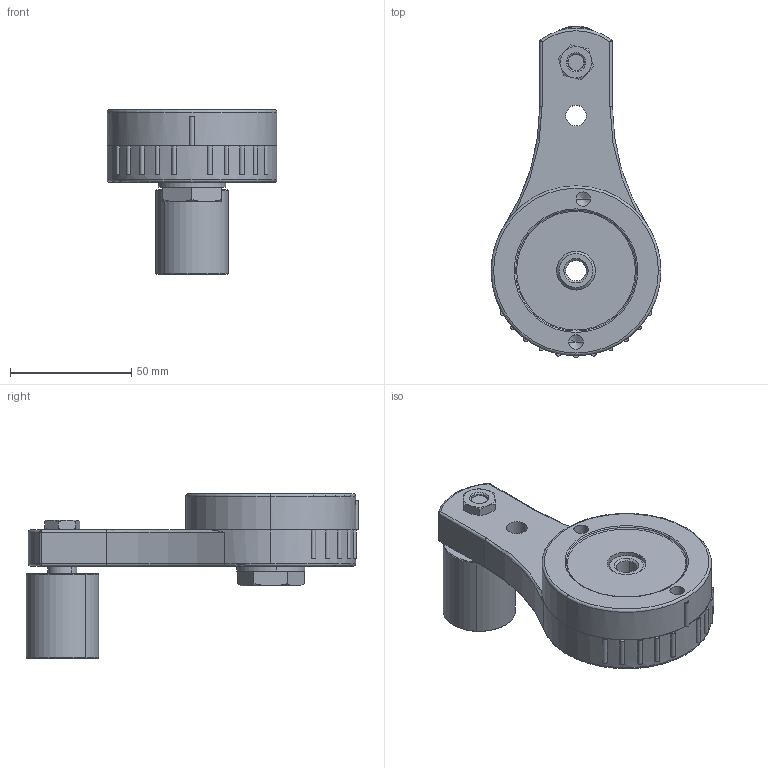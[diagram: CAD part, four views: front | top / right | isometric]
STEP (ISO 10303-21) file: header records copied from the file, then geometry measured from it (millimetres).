
FILE_DESCRIPTION (( 'STEP AP203' ), '1' );
FILE_NAME ('TRU1 - 3035PA cod. 94031135.STEP', '2017-08-23T09:09:39', ( '' ), ( '' ), 'SwSTEP 2.0', 'SolidWorks 2016', '' );
FILE_SCHEMA (( 'CONFIG_CONTROL_DESIGN' ));
Length unit declared in the file: millimetre
Products named in the file (12): Esagono di fissaggio T1; RU 3035 PA cod. 94040135_montaggio 1; ISO 4017 - M8 x 50-C_ISO 4017 - M8 x 50-C; DIST-3035; TRU1 - 3035PA cod. 94031135; Boccola BZ 20X25X28X2X14; T1 Base_Step; ISO - 4035 - M8 - N_ISO - 4035 - M8 - N; SKF - 608 - 8,SI,NC,8_68_SKF - 608 - 8,SI,NC,8_68; T1 Leva 8.5_Step; T1 8.5 cod. 94030108N; PA-2973035VS
Assembly tree (13 placements, depth 3):
  TRU1 - 3035PA cod. 94031135
    T1 8.5 cod. 94030108N
      T1 Base_Step
      T1 Leva 8.5_Step
      Boccola BZ 20X25X28X2X14
      Esagono di fissaggio T1
    RU 3035 PA cod. 94040135_montaggio 1
      PA-2973035VS
      SKF - 608 - 8,SI,NC,8_68_SKF - 608 - 8,SI,NC,8_68  x2
      DIST-3035  x2
      ISO 4017 - M8 x 50-C_ISO 4017 - M8 x 50-C
    ISO - 4035 - M8 - N_ISO - 4035 - M8 - N
Bounding box: 70 x 137 x 68 mm (x, y, z)
Volume: 150419 mm3; surface area: 51516.5 mm2
Topology: 11 solids, 11 shells, 328 faces, 730 edges, 434 vertices
Faces by surface type: cylinder 119, plane 77, cone 65, torus 59, sphere 8
Entity records: 9575 total; most frequent: CARTESIAN_POINT 1648, DIRECTION 1579, ORIENTED_EDGE 1266, AXIS2_PLACEMENT_3D 692, EDGE_CURVE 633, CIRCLE 388, VERTEX_POINT 383, EDGE_LOOP 324
